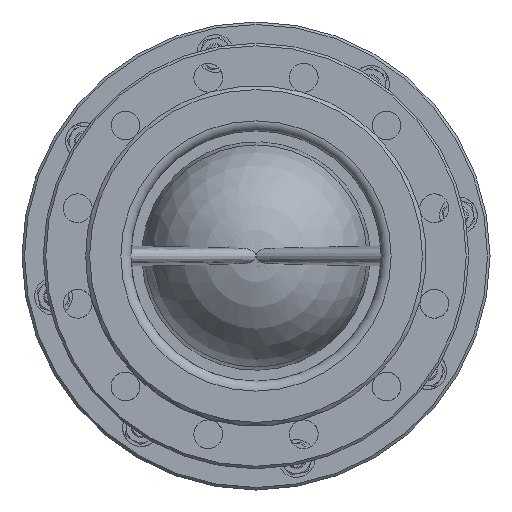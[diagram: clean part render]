
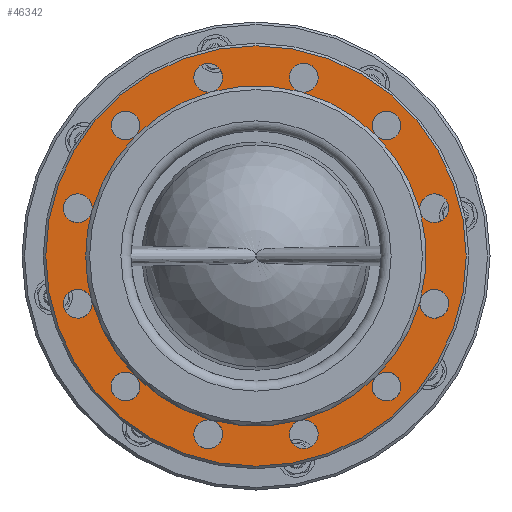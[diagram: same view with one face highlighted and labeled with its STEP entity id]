
A CAD part, front view. The second image highlights one B-rep face of the part: STEP entity #46342.
In plain terms, the highlighted planar face has unit normal (0, -1, 0).
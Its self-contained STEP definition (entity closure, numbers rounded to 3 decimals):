
#3774=CIRCLE('',#48754,136.);
#3775=CIRCLE('',#48755,136.);
#3776=CIRCLE('',#48756,136.);
#3777=CIRCLE('',#48757,136.);
#3778=CIRCLE('',#48758,136.);
#3779=CIRCLE('',#48759,136.);
#3780=CIRCLE('',#48760,136.);
#3781=CIRCLE('',#48761,136.);
#3782=CIRCLE('',#48762,136.);
#3783=CIRCLE('',#48763,136.);
#3784=CIRCLE('',#48764,136.);
#3785=CIRCLE('',#48765,136.);
#3786=CIRCLE('',#48767,168.);
#3797=CIRCLE('',#48788,11.5);
#3798=CIRCLE('',#48789,11.5);
#3799=CIRCLE('',#48790,11.5);
#3800=CIRCLE('',#48791,11.5);
#3801=CIRCLE('',#48792,11.5);
#3802=CIRCLE('',#48793,11.5);
#3803=CIRCLE('',#48794,11.5);
#3804=CIRCLE('',#48795,11.5);
#3805=CIRCLE('',#48796,11.5);
#3806=CIRCLE('',#48797,11.5);
#3807=CIRCLE('',#48798,11.5);
#3808=CIRCLE('',#48799,11.5);
#5225=PLANE('',#48787);
#6219=ORIENTED_EDGE('',*,*,#14672,.T.);
#6220=ORIENTED_EDGE('',*,*,#14662,.T.);
#6221=ORIENTED_EDGE('',*,*,#14683,.F.);
#6222=ORIENTED_EDGE('',*,*,#14661,.T.);
#6223=ORIENTED_EDGE('',*,*,#14684,.F.);
#6224=ORIENTED_EDGE('',*,*,#14660,.T.);
#6225=ORIENTED_EDGE('',*,*,#14685,.F.);
#6226=ORIENTED_EDGE('',*,*,#14671,.T.);
#6227=ORIENTED_EDGE('',*,*,#14686,.F.);
#6228=ORIENTED_EDGE('',*,*,#14670,.T.);
#6229=ORIENTED_EDGE('',*,*,#14687,.F.);
#6230=ORIENTED_EDGE('',*,*,#14669,.T.);
#6231=ORIENTED_EDGE('',*,*,#14688,.F.);
#6232=ORIENTED_EDGE('',*,*,#14668,.T.);
#6233=ORIENTED_EDGE('',*,*,#14689,.F.);
#6234=ORIENTED_EDGE('',*,*,#14667,.T.);
#6235=ORIENTED_EDGE('',*,*,#14690,.F.);
#6236=ORIENTED_EDGE('',*,*,#14666,.T.);
#6237=ORIENTED_EDGE('',*,*,#14691,.F.);
#6238=ORIENTED_EDGE('',*,*,#14665,.T.);
#6239=ORIENTED_EDGE('',*,*,#14692,.F.);
#6240=ORIENTED_EDGE('',*,*,#14664,.T.);
#6241=ORIENTED_EDGE('',*,*,#14693,.F.);
#6242=ORIENTED_EDGE('',*,*,#14663,.T.);
#6243=ORIENTED_EDGE('',*,*,#14694,.F.);
#14660=EDGE_CURVE('',#18944,#18945,#3774,.T.);
#14661=EDGE_CURVE('',#18946,#18944,#3775,.T.);
#14662=EDGE_CURVE('',#18947,#18946,#3776,.T.);
#14663=EDGE_CURVE('',#18948,#18947,#3777,.T.);
#14664=EDGE_CURVE('',#18949,#18948,#3778,.T.);
#14665=EDGE_CURVE('',#18950,#18949,#3779,.T.);
#14666=EDGE_CURVE('',#18951,#18950,#3780,.T.);
#14667=EDGE_CURVE('',#18952,#18951,#3781,.T.);
#14668=EDGE_CURVE('',#18953,#18952,#3782,.T.);
#14669=EDGE_CURVE('',#18954,#18953,#3783,.T.);
#14670=EDGE_CURVE('',#18955,#18954,#3784,.T.);
#14671=EDGE_CURVE('',#18945,#18955,#3785,.T.);
#14672=EDGE_CURVE('',#18956,#18956,#3786,.T.);
#14683=EDGE_CURVE('',#18946,#18946,#3797,.T.);
#14684=EDGE_CURVE('',#18944,#18944,#3798,.T.);
#14685=EDGE_CURVE('',#18945,#18945,#3799,.T.);
#14686=EDGE_CURVE('',#18955,#18955,#3800,.T.);
#14687=EDGE_CURVE('',#18954,#18954,#3801,.T.);
#14688=EDGE_CURVE('',#18953,#18953,#3802,.T.);
#14689=EDGE_CURVE('',#18952,#18952,#3803,.T.);
#14690=EDGE_CURVE('',#18951,#18951,#3804,.T.);
#14691=EDGE_CURVE('',#18950,#18950,#3805,.T.);
#14692=EDGE_CURVE('',#18949,#18949,#3806,.T.);
#14693=EDGE_CURVE('',#18948,#18948,#3807,.T.);
#14694=EDGE_CURVE('',#18947,#18947,#3808,.T.);
#18944=VERTEX_POINT('',#61007);
#18945=VERTEX_POINT('',#61008);
#18946=VERTEX_POINT('',#61010);
#18947=VERTEX_POINT('',#61012);
#18948=VERTEX_POINT('',#61014);
#18949=VERTEX_POINT('',#61016);
#18950=VERTEX_POINT('',#61018);
#18951=VERTEX_POINT('',#61020);
#18952=VERTEX_POINT('',#61022);
#18953=VERTEX_POINT('',#61024);
#18954=VERTEX_POINT('',#61026);
#18955=VERTEX_POINT('',#61028);
#18956=VERTEX_POINT('',#61032);
#23760=EDGE_LOOP('',(#6219));
#23761=EDGE_LOOP('',(#6220,#6221,#6222,#6223,#6224,#6225,#6226,#6227,#6228,
#6229,#6230,#6231,#6232,#6233,#6234,#6235,#6236,#6237,#6238,#6239,#6240,
#6241,#6242,#6243));
#27101=FACE_BOUND('',#23760,.T.);
#27102=FACE_BOUND('',#23761,.T.);
#46342=ADVANCED_FACE('',(#27101,#27102),#5225,.T.);
#48754=AXIS2_PLACEMENT_3D('',#61006,#52415,#52416);
#48755=AXIS2_PLACEMENT_3D('',#61009,#52417,#52418);
#48756=AXIS2_PLACEMENT_3D('',#61011,#52419,#52420);
#48757=AXIS2_PLACEMENT_3D('',#61013,#52421,#52422);
#48758=AXIS2_PLACEMENT_3D('',#61015,#52423,#52424);
#48759=AXIS2_PLACEMENT_3D('',#61017,#52425,#52426);
#48760=AXIS2_PLACEMENT_3D('',#61019,#52427,#52428);
#48761=AXIS2_PLACEMENT_3D('',#61021,#52429,#52430);
#48762=AXIS2_PLACEMENT_3D('',#61023,#52431,#52432);
#48763=AXIS2_PLACEMENT_3D('',#61025,#52433,#52434);
#48764=AXIS2_PLACEMENT_3D('',#61027,#52435,#52436);
#48765=AXIS2_PLACEMENT_3D('',#61029,#52437,#52438);
#48767=AXIS2_PLACEMENT_3D('',#61031,#52441,#52442);
#48787=AXIS2_PLACEMENT_3D('',#61062,#52481,#52482);
#48788=AXIS2_PLACEMENT_3D('',#61063,#52483,#52484);
#48789=AXIS2_PLACEMENT_3D('',#61064,#52485,#52486);
#48790=AXIS2_PLACEMENT_3D('',#61065,#52487,#52488);
#48791=AXIS2_PLACEMENT_3D('',#61066,#52489,#52490);
#48792=AXIS2_PLACEMENT_3D('',#61067,#52491,#52492);
#48793=AXIS2_PLACEMENT_3D('',#61068,#52493,#52494);
#48794=AXIS2_PLACEMENT_3D('',#61069,#52495,#52496);
#48795=AXIS2_PLACEMENT_3D('',#61070,#52497,#52498);
#48796=AXIS2_PLACEMENT_3D('',#61071,#52499,#52500);
#48797=AXIS2_PLACEMENT_3D('',#61072,#52501,#52502);
#48798=AXIS2_PLACEMENT_3D('',#61073,#52503,#52504);
#48799=AXIS2_PLACEMENT_3D('',#61074,#52505,#52506);
#52415=DIRECTION('',(0.,1.,0.));
#52416=DIRECTION('',(-1.,0.,0.));
#52417=DIRECTION('',(0.,1.,0.));
#52418=DIRECTION('',(-1.,0.,0.));
#52419=DIRECTION('',(0.,1.,0.));
#52420=DIRECTION('',(-1.,0.,0.));
#52421=DIRECTION('',(0.,1.,0.));
#52422=DIRECTION('',(-1.,0.,0.));
#52423=DIRECTION('',(0.,1.,0.));
#52424=DIRECTION('',(-1.,0.,0.));
#52425=DIRECTION('',(0.,1.,0.));
#52426=DIRECTION('',(-1.,0.,0.));
#52427=DIRECTION('',(0.,1.,0.));
#52428=DIRECTION('',(-1.,0.,0.));
#52429=DIRECTION('',(0.,1.,0.));
#52430=DIRECTION('',(-1.,0.,0.));
#52431=DIRECTION('',(0.,1.,0.));
#52432=DIRECTION('',(-1.,0.,0.));
#52433=DIRECTION('',(0.,1.,0.));
#52434=DIRECTION('',(-1.,0.,0.));
#52435=DIRECTION('',(0.,1.,0.));
#52436=DIRECTION('',(-1.,0.,0.));
#52437=DIRECTION('',(0.,1.,0.));
#52438=DIRECTION('',(-1.,0.,0.));
#52441=DIRECTION('',(0.,-1.,0.));
#52442=DIRECTION('',(1.,0.,0.));
#52481=DIRECTION('',(0.,-1.,0.));
#52482=DIRECTION('',(1.,0.,0.));
#52483=DIRECTION('',(0.,-1.,0.));
#52484=DIRECTION('',(1.,0.,0.));
#52485=DIRECTION('',(0.,-1.,0.));
#52486=DIRECTION('',(1.,0.,0.));
#52487=DIRECTION('',(0.,-1.,0.));
#52488=DIRECTION('',(1.,0.,0.));
#52489=DIRECTION('',(0.,-1.,0.));
#52490=DIRECTION('',(1.,0.,0.));
#52491=DIRECTION('',(0.,-1.,0.));
#52492=DIRECTION('',(1.,0.,0.));
#52493=DIRECTION('',(0.,-1.,0.));
#52494=DIRECTION('',(1.,0.,0.));
#52495=DIRECTION('',(0.,-1.,0.));
#52496=DIRECTION('',(1.,0.,0.));
#52497=DIRECTION('',(0.,-1.,0.));
#52498=DIRECTION('',(1.,0.,0.));
#52499=DIRECTION('',(0.,-1.,0.));
#52500=DIRECTION('',(1.,0.,0.));
#52501=DIRECTION('',(0.,-1.,0.));
#52502=DIRECTION('',(1.,0.,0.));
#52503=DIRECTION('',(0.,-1.,0.));
#52504=DIRECTION('',(1.,0.,0.));
#52505=DIRECTION('',(0.,-1.,0.));
#52506=DIRECTION('',(1.,0.,0.));
#61006=CARTESIAN_POINT('',(0.,-104.5,0.));
#61007=CARTESIAN_POINT('',(-35.199,-104.5,131.366));
#61008=CARTESIAN_POINT('',(35.199,-104.5,131.366));
#61009=CARTESIAN_POINT('',(0.,-104.5,0.));
#61010=CARTESIAN_POINT('',(-96.167,-104.5,96.167));
#61011=CARTESIAN_POINT('',(0.,-104.5,0.));
#61012=CARTESIAN_POINT('',(-131.366,-104.5,35.199));
#61013=CARTESIAN_POINT('',(0.,-104.5,0.));
#61014=CARTESIAN_POINT('',(-131.366,-104.5,-35.199));
#61015=CARTESIAN_POINT('',(0.,-104.5,0.));
#61016=CARTESIAN_POINT('',(-96.167,-104.5,-96.167));
#61017=CARTESIAN_POINT('',(0.,-104.5,0.));
#61018=CARTESIAN_POINT('',(-35.199,-104.5,-131.366));
#61019=CARTESIAN_POINT('',(0.,-104.5,0.));
#61020=CARTESIAN_POINT('',(35.199,-104.5,-131.366));
#61021=CARTESIAN_POINT('',(0.,-104.5,0.));
#61022=CARTESIAN_POINT('',(96.167,-104.5,-96.167));
#61023=CARTESIAN_POINT('',(0.,-104.5,0.));
#61024=CARTESIAN_POINT('',(131.366,-104.5,-35.199));
#61025=CARTESIAN_POINT('',(0.,-104.5,0.));
#61026=CARTESIAN_POINT('',(131.366,-104.5,35.199));
#61027=CARTESIAN_POINT('',(0.,-104.5,0.));
#61028=CARTESIAN_POINT('',(96.167,-104.5,96.167));
#61029=CARTESIAN_POINT('',(0.,-104.5,0.));
#61031=CARTESIAN_POINT('',(0.,-104.5,0.));
#61032=CARTESIAN_POINT('',(168.,-104.5,0.));
#61062=CARTESIAN_POINT('',(-138.5,-104.5,0.));
#61063=CARTESIAN_POINT('',(-104.298,-104.5,104.298));
#61064=CARTESIAN_POINT('',(-38.176,-104.5,142.474));
#61065=CARTESIAN_POINT('',(38.176,-104.5,142.474));
#61066=CARTESIAN_POINT('',(104.298,-104.5,104.298));
#61067=CARTESIAN_POINT('',(142.474,-104.5,38.176));
#61068=CARTESIAN_POINT('',(142.474,-104.5,-38.176));
#61069=CARTESIAN_POINT('',(104.298,-104.5,-104.298));
#61070=CARTESIAN_POINT('',(38.176,-104.5,-142.474));
#61071=CARTESIAN_POINT('',(-38.176,-104.5,-142.474));
#61072=CARTESIAN_POINT('',(-104.298,-104.5,-104.298));
#61073=CARTESIAN_POINT('',(-142.474,-104.5,-38.176));
#61074=CARTESIAN_POINT('',(-142.474,-104.5,38.176));
